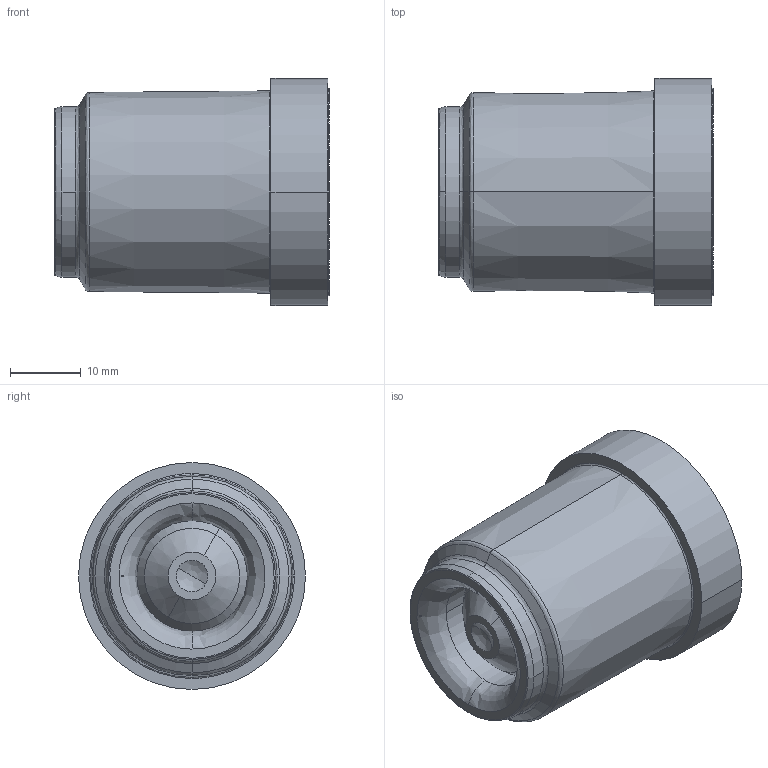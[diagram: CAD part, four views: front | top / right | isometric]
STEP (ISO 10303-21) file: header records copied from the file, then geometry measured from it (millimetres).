
FILE_DESCRIPTION (( 'STEP AP203' ), '1' );
FILE_NAME ('WM025-W149025600.STEP', '2020-04-08T14:51:16', ( '' ), ( '' ), 'SwSTEP 2.0', 'SolidWorks 2017', '' );
FILE_SCHEMA (( 'CONFIG_CONTROL_DESIGN' ));
Length unit declared in the file: metre
Products named in the file (6): PRT_FRVIR_0000008047_D25Spl(monté); PRT_FRVIR_0000008073; PRT_FRVIR_0000008108; WM025-W149025600; Pièce36^ASM_FRVIR_0000002713; PRT_FRVIR_0000008076
Assembly tree (5 placements, depth 2):
  WM025-W149025600
    PRT_FRVIR_0000008108
    PRT_FRVIR_0000008047_D25Spl(monté)
    PRT_FRVIR_0000008073
    PRT_FRVIR_0000008076
    Pièce36^ASM_FRVIR_0000002713
Bounding box: 38.75 x 32 x 32 mm (x, y, z)
Volume: 11042.3 mm3; surface area: 12540.4 mm2
Topology: 5 solids, 5 shells, 449 faces, 1210 edges, 764 vertices
Faces by surface type: plane 192, bspline 122, cone 68, cylinder 67
Entity records: 23548 total; most frequent: CARTESIAN_POINT 12787, ORIENTED_EDGE 2368, DIRECTION 1733, EDGE_CURVE 1184, VERTEX_POINT 764, AXIS2_PLACEMENT_3D 594, LINE 545, VECTOR 545
